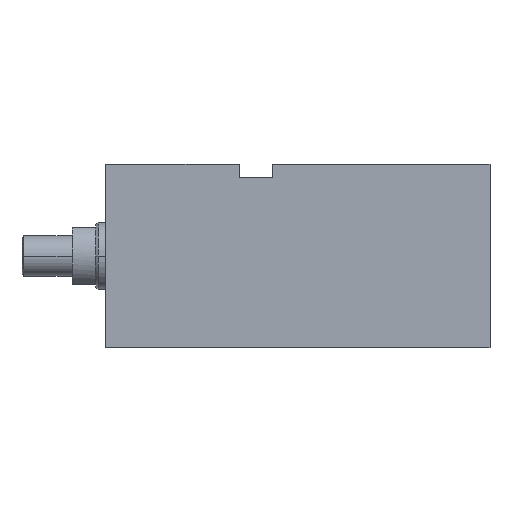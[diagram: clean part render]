
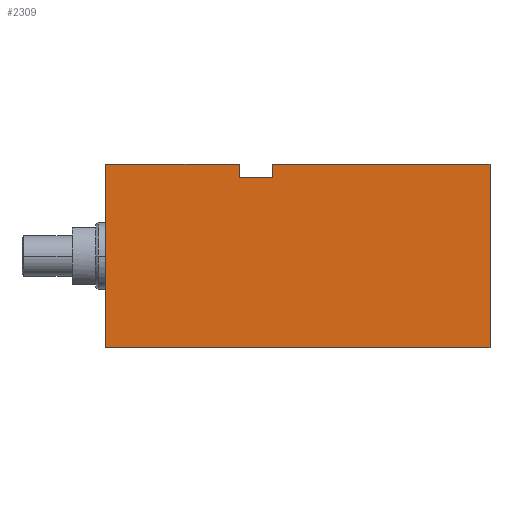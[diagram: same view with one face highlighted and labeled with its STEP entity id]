
A CAD part, left-side view. The second image highlights one B-rep face of the part: STEP entity #2309.
In plain terms, the highlighted planar face has unit normal (-1, 0, 0).
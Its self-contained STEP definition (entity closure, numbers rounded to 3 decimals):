
#14 = CARTESIAN_POINT ( 'NONE',  ( -37.5, 75., 23.5 ) ) ;
#15 = DIRECTION ( 'NONE',  ( 0., -1., 0. ) ) ;
#33 = VERTEX_POINT ( 'NONE', #1712 ) ;
#68 = EDGE_CURVE ( 'NONE', #2879, #180, #611, .T. ) ;
#82 = CARTESIAN_POINT ( 'NONE',  ( -37.5, 75., 23.5 ) ) ;
#85 = ORIENTED_EDGE ( 'NONE', *, *, #594, .F. ) ;
#97 = DIRECTION ( 'NONE',  ( 0., 0., 1. ) ) ;
#118 = CARTESIAN_POINT ( 'NONE',  ( -37.5, 65., 27.5 ) ) ;
#125 = PLANE ( 'NONE',  #885 ) ;
#167 = EDGE_CURVE ( 'NONE', #2879, #1918, #403, .T. ) ;
#180 = VERTEX_POINT ( 'NONE', #2561 ) ;
#191 = CARTESIAN_POINT ( 'NONE',  ( -37.5, 0., -27.5 ) ) ;
#238 = CARTESIAN_POINT ( 'NONE',  ( -37.5, 115., -27.5 ) ) ;
#356 = VECTOR ( 'NONE', #2926, 1000. ) ;
#385 = DIRECTION ( 'NONE',  ( 0., 0., -1. ) ) ;
#398 = VECTOR ( 'NONE', #97, 1000. ) ;
#403 = LINE ( 'NONE', #2748, #1648 ) ;
#467 = LINE ( 'NONE', #1832, #398 ) ;
#538 = EDGE_CURVE ( 'NONE', #180, #2476, #1098, .T. ) ;
#594 = EDGE_CURVE ( 'NONE', #3079, #2047, #2238, .T. ) ;
#611 = LINE ( 'NONE', #1288, #1205 ) ;
#616 = LINE ( 'NONE', #2948, #2485 ) ;
#739 = ORIENTED_EDGE ( 'NONE', *, *, #2249, .T. ) ;
#767 = DIRECTION ( 'NONE',  ( 0., 0., 1. ) ) ;
#815 = ORIENTED_EDGE ( 'NONE', *, *, #167, .T. ) ;
#885 = AXIS2_PLACEMENT_3D ( 'NONE', #2337, #1857, #385 ) ;
#901 = CARTESIAN_POINT ( 'NONE',  ( -37.5, 65., 27.5 ) ) ;
#944 = DIRECTION ( 'NONE',  ( 0., 0., 1. ) ) ;
#1075 = VECTOR ( 'NONE', #1716, 1000. ) ;
#1098 = LINE ( 'NONE', #118, #2313 ) ;
#1117 = DIRECTION ( 'NONE',  ( 0., 0., 1. ) ) ;
#1195 = CARTESIAN_POINT ( 'NONE',  ( -37.5, 75., 27.5 ) ) ;
#1205 = VECTOR ( 'NONE', #1117, 1000. ) ;
#1288 = CARTESIAN_POINT ( 'NONE',  ( -37.5, 115., -27.5 ) ) ;
#1333 = ORIENTED_EDGE ( 'NONE', *, *, #2841, .F. ) ;
#1454 = CARTESIAN_POINT ( 'NONE',  ( -37.5, 65., 27.5 ) ) ;
#1488 = ORIENTED_EDGE ( 'NONE', *, *, #2466, .T. ) ;
#1648 = VECTOR ( 'NONE', #2759, 1000. ) ;
#1712 = CARTESIAN_POINT ( 'NONE',  ( -37.5, 0., 27.5 ) ) ;
#1716 = DIRECTION ( 'NONE',  ( 0., -1., 0. ) ) ;
#1724 = CARTESIAN_POINT ( 'NONE',  ( -37.5, 65., 23.5 ) ) ;
#1827 = VECTOR ( 'NONE', #944, 1000. ) ;
#1832 = CARTESIAN_POINT ( 'NONE',  ( -37.5, 75., 23.5 ) ) ;
#1857 = DIRECTION ( 'NONE',  ( 1., 0., 0. ) ) ;
#1918 = VERTEX_POINT ( 'NONE', #2166 ) ;
#1977 = ORIENTED_EDGE ( 'NONE', *, *, #2149, .F. ) ;
#2047 = VERTEX_POINT ( 'NONE', #1724 ) ;
#2053 = ORIENTED_EDGE ( 'NONE', *, *, #538, .F. ) ;
#2149 = EDGE_CURVE ( 'NONE', #2047, #2640, #616, .T. ) ;
#2166 = CARTESIAN_POINT ( 'NONE',  ( -37.5, 0., -27.5 ) ) ;
#2198 = FACE_OUTER_BOUND ( 'NONE', #2996, .T. ) ;
#2238 = LINE ( 'NONE', #14, #356 ) ;
#2249 = EDGE_CURVE ( 'NONE', #3079, #2476, #467, .T. ) ;
#2309 = ADVANCED_FACE ( 'NONE', ( #2198 ), #125, .F. ) ;
#2313 = VECTOR ( 'NONE', #15, 1000. ) ;
#2337 = CARTESIAN_POINT ( 'NONE',  ( -37.5, 65., -27.5 ) ) ;
#2448 = LINE ( 'NONE', #191, #1827 ) ;
#2466 = EDGE_CURVE ( 'NONE', #1918, #33, #2448, .T. ) ;
#2476 = VERTEX_POINT ( 'NONE', #1195 ) ;
#2485 = VECTOR ( 'NONE', #767, 1000. ) ;
#2561 = CARTESIAN_POINT ( 'NONE',  ( -37.5, 115., 27.5 ) ) ;
#2640 = VERTEX_POINT ( 'NONE', #901 ) ;
#2671 = ORIENTED_EDGE ( 'NONE', *, *, #68, .F. ) ;
#2748 = CARTESIAN_POINT ( 'NONE',  ( -37.5, 65., -27.5 ) ) ;
#2759 = DIRECTION ( 'NONE',  ( 0., -1., 0. ) ) ;
#2841 = EDGE_CURVE ( 'NONE', #2640, #33, #2984, .T. ) ;
#2879 = VERTEX_POINT ( 'NONE', #238 ) ;
#2926 = DIRECTION ( 'NONE',  ( 0., -1., 0. ) ) ;
#2948 = CARTESIAN_POINT ( 'NONE',  ( -37.5, 65., 23.5 ) ) ;
#2984 = LINE ( 'NONE', #1454, #1075 ) ;
#2996 = EDGE_LOOP ( 'NONE', ( #1333, #1977, #85, #739, #2053, #2671, #815, #1488 ) ) ;
#3079 = VERTEX_POINT ( 'NONE', #82 ) ;
